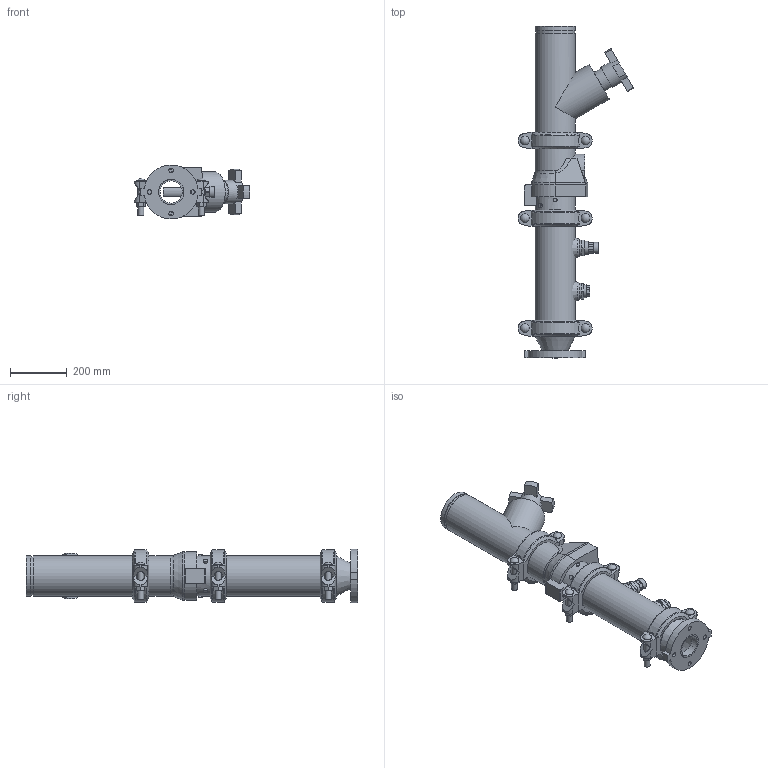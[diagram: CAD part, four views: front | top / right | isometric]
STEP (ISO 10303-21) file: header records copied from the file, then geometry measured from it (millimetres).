
FILE_DESCRIPTION(/* description */ ('VIC DVI PUMP DROP VERT S/383 (OGSxFLG) (S/924-0.75)','CAx-IF Rec.Pracs.---Representation and Presentation of Product Manufacturing Information (PMI)---4.0---2014-10-13'),/* implementation_level */ '2;1');
FILE_NAME(/* name */ 'C:\Users\Public\Documents\Victaulic.Temp\A849\Victaulic_IPS_Vertical DVI_CL 150_Series 383 (OGSxFLG)_924 (0.75)_05.0x03.0 (125x80).stp',/* time_stamp */ '2022-07-25T11:39:34+02:00',/* author */ ('Vjadhav'),/* organization */ ('Victaulic'),/* preprocessor_version */ 'ST-DEVELOPER v18',/* originating_system */ 'Autodesk Inventor 2020',/* authorisation */ '');
FILE_SCHEMA (('AP242_MANAGED_MODEL_BASED_3D_ENGINEERING_MIM_LF { 1 0 10303 442 1 1 4 }'));
Length unit declared in the file: inch
Products named in the file (9): 383_924 (0.75)-05.0x03.0; 741-03.0; 050-05.0x03.0; Pipe-05.0; 177N-05.0; 789-05.0; 779-05.0; 924-04.0x0.75; 923-04.0x0.75
Assembly tree (10 placements, depth 2):
  383_924 (0.75)-05.0x03.0
    741-03.0
    050-05.0x03.0
    177N-05.0  x3
    Pipe-05.0
    789-05.0
    779-05.0
    924-04.0x0.75
    923-04.0x0.75
Bounding box: 406.02 x 1168.4 x 189.82 mm (x, y, z)
Volume: 10481020.1 mm3; surface area: 1664828.2 mm2
Topology: 10 solids, 10 shells, 530 faces, 1427 edges, 954 vertices
Faces by surface type: plane 310, cylinder 175, cone 19, torus 18, sphere 6, bspline 2
Full cylindrical faces by diameter (mm): 13.716 x4, 15.875 x4, 21.209 x6, 26.67 x2, 30.48 x6, 38.608 x1, 45.974 x4, 55.626 x2, 75.26 x1, 77.927 x1, 82.55 x1, 84.938 x1, 88.9 x3, 128.194 x4, 128.6 x3, 137.033 x7, 141.3 x19
Entity records: 12017 total; most frequent: CARTESIAN_POINT 2447, DIRECTION 1968, ORIENTED_EDGE 1802, EDGE_CURVE 901, AXIS2_PLACEMENT_3D 749, VERTEX_POINT 610, LINE 470, VECTOR 470
